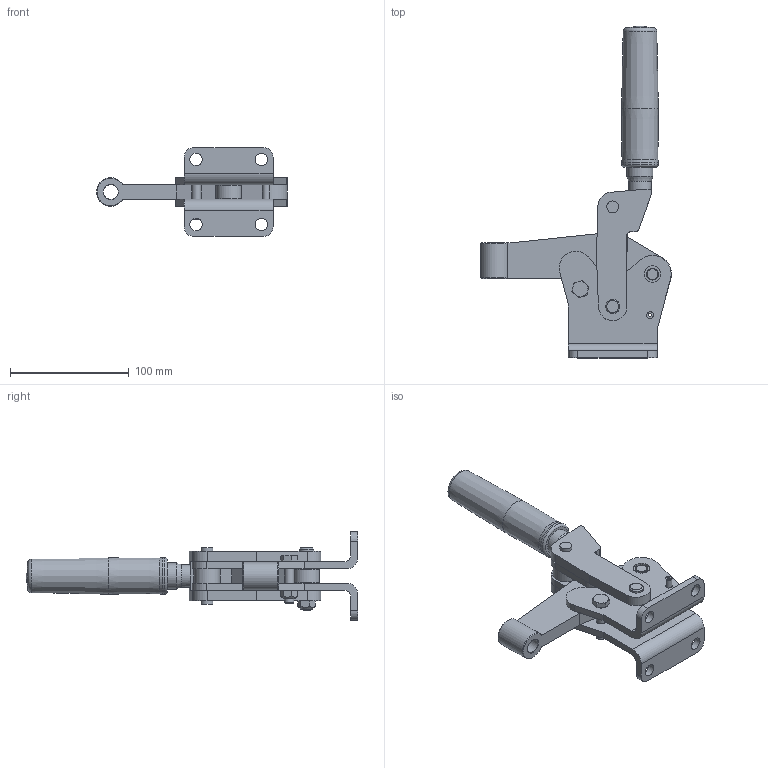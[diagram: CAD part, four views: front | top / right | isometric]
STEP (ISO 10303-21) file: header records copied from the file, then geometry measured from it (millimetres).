
FILE_DESCRIPTION( ( 'STEP AP203' ), '1' );
FILE_NAME( 'C:/Temp/Ganter_Step_05_03_2020/data/2_4/gn910/gn910_e/Toggle clamp GN 910-850-E (closed).stp', '2020-03-13T05:50:21', ( 'License CC BY-ND 4.0' ), ( 'CADENAS' ), ' ', 'PARTsolutions', ' ' );
FILE_SCHEMA( ( 'CONFIG_CONTROL_DESIGN' ) );
Length unit declared in the file: millimetre
Products named in the file (5): Toggle clamp GN 910-850-E (closed); _Toggle clamp GN 910-850-E-1; _Toggle clamp GN 910-850-E (0)-4; _Toggle clamp GN 910-850-E-2; _Toggle clamp GN 910-850-E (0)-3
Assembly tree (4 placements, depth 2):
  Toggle clamp GN 910-850-E (closed)
    _Toggle clamp GN 910-850-E-1
    _Toggle clamp GN 910-850-E (0)-4
    _Toggle clamp GN 910-850-E-2
    _Toggle clamp GN 910-850-E (0)-3
Bounding box: 161.1 x 280 x 75 mm (x, y, z)
Volume: 355318.3 mm3; surface area: 100263.3 mm2
Topology: 4 solids, 4 shells, 187 faces, 458 edges, 301 vertices
Faces by surface type: plane 93, cylinder 67, cone 23, torus 4
Full cylindrical faces by diameter (mm): 8 x2, 9 x2, 10 x10, 10.5 x4, 12 x4, 12.24 x1, 12.5 x1, 14 x2, 19 x1, 21.7 x1, 22 x2, 31 x1
Entity records: 5619 total; most frequent: CARTESIAN_POINT 1181, DIRECTION 905, ORIENTED_EDGE 786, EDGE_CURVE 393, AXIS2_PLACEMENT_3D 355, EDGE_LOOP 291, VERTEX_POINT 287, FACE_OUTER_BOUND 222
